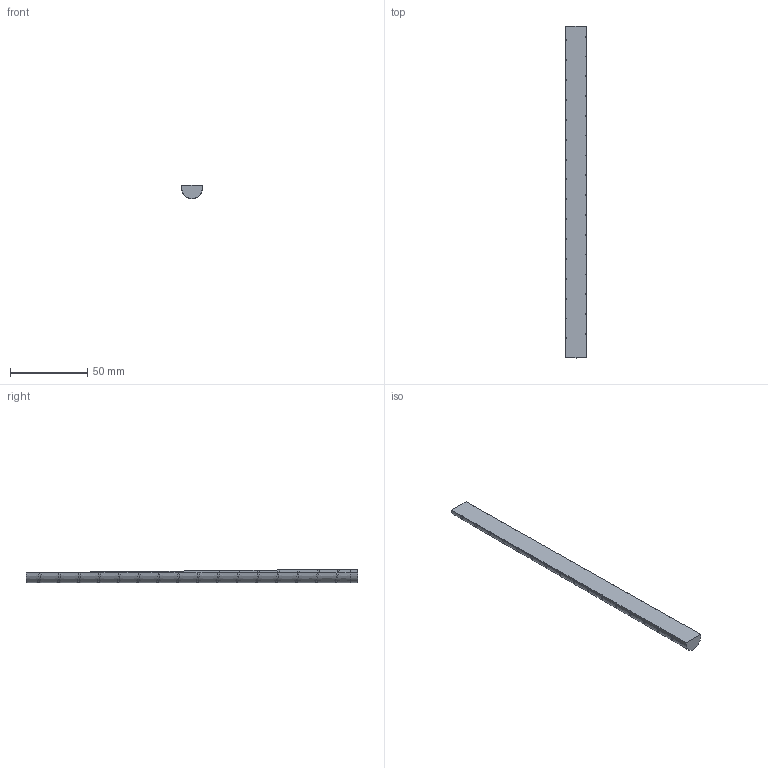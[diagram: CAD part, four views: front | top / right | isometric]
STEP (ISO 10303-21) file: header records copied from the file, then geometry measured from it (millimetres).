
FILE_DESCRIPTION(/* description */ (''),/* implementation_level */ '2;1');
FILE_NAME(/* name */ 'C:\Users\johne\Desktop\AR15 Mag Spring Bending Jig\Side section 1.stp',/* time_stamp */ '2018-12-05T17:40:38-06:00',/* author */ ('johne'),/* organization */ (''),/* preprocessor_version */ 'ST-DEVELOPER v16.13',/* originating_system */ 'Autodesk Inventor 2018',/* authorisation */ '');
FILE_SCHEMA (('AUTOMOTIVE_DESIGN { 1 0 10303 214 3 1 1 }'));
Length unit declared in the file: millimetre
Products named in the file (1): Side section 1
Bounding box: 13.53 x 214.55 x 8.86 mm (x, y, z)
Volume: 17522.7 mm3; surface area: 7944.8 mm2
Topology: 1 solids, 1 shells, 139 faces, 406 edges, 269 vertices
Faces by surface type: bspline 64, plane 39, cone 34, cylinder 2
Entity records: 8062 total; most frequent: CARTESIAN_POINT 4620, ORIENTED_EDGE 812, DIRECTION 603, EDGE_CURVE 406, VERTEX_POINT 269, LINE 219, VECTOR 219, AXIS2_PLACEMENT_3D 192
